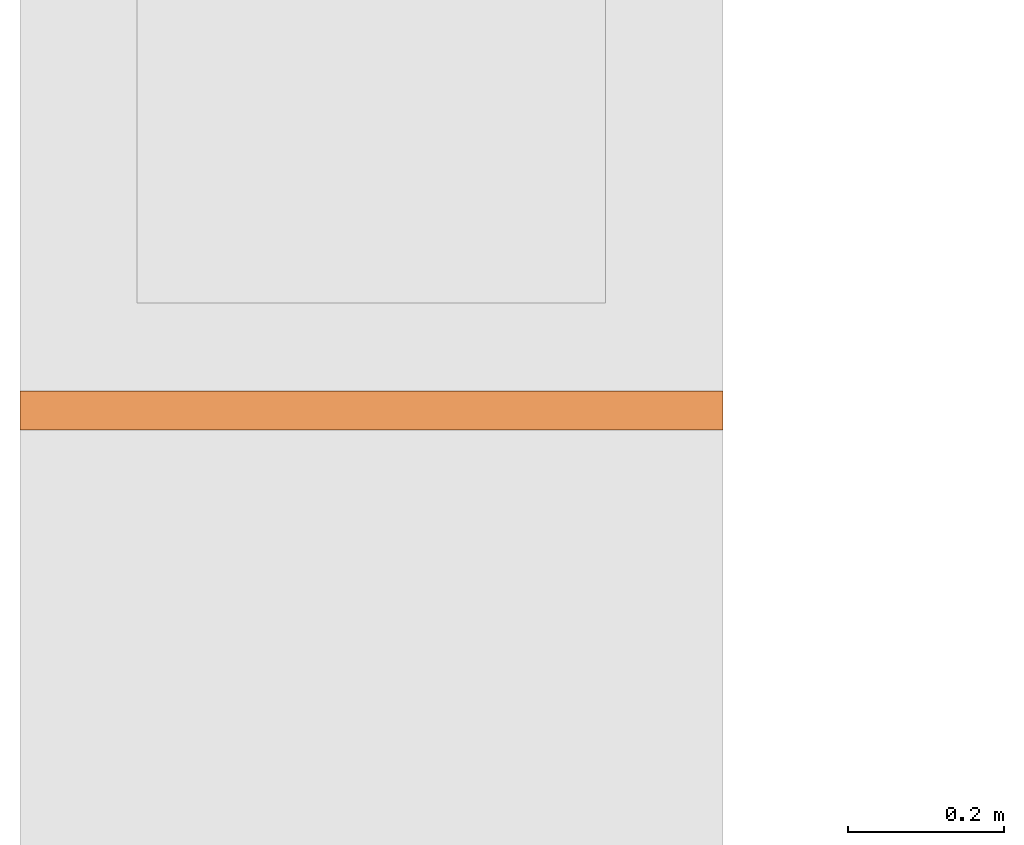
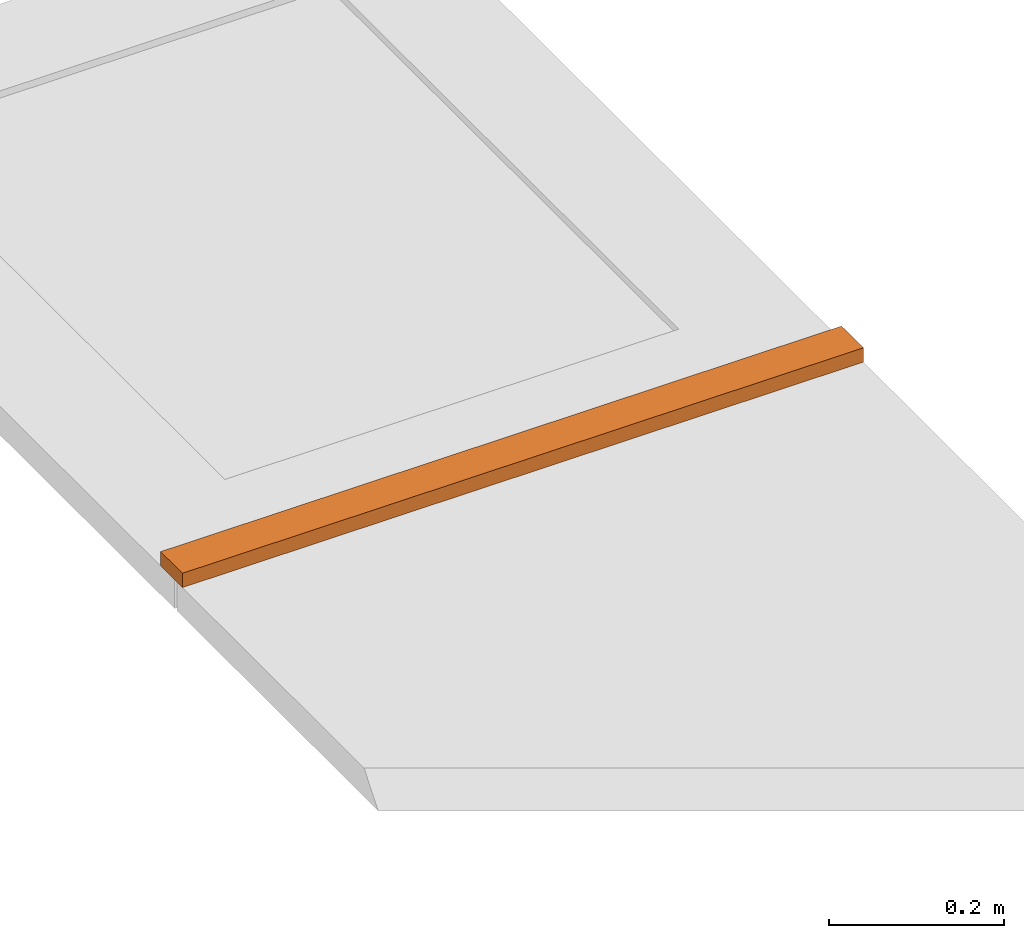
# One storey, part 163 of 167: 1 proxy.
"""IFC2X3 building model written with IfcOpenShell, lengths in millimetres."""

from ifc_helpers import new_model, entity, si_unit, converted_unit, derived_unit, money_unit, direction, frame, origin_with_axes, place, context, subcontext, project, spatial, faceted_brep, material, type_object, element, save


model = new_model("IFC2X3")

# Units and contexts
model_context = context("Model", 3, precision=0.01, world=origin_with_axes(), true_north=direction((0.0, 1.0)))
plan_context = context("Plan", 3, precision=0.01, world=origin_with_axes(), true_north=direction((0.0, 1.0)))
body_context = subcontext(model_context, "Body", "Model", "MODEL_VIEW")
ifc_project = project(units=[si_unit("LENGTHUNIT", "METRE", prefix="MILLI"), si_unit("AREAUNIT", "SQUARE_METRE"), si_unit("VOLUMEUNIT", "CUBIC_METRE"), converted_unit("PLANEANGLEUNIT", "DEGREE", entity("IfcPlaneAngleMeasure", 0.0174532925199), si_unit("PLANEANGLEUNIT", "RADIAN"), dimensions=[0, 0, 0, 0, 0, 0, 0]), si_unit("SOLIDANGLEUNIT", "STERADIAN"), money_unit("EUR"), converted_unit("TIMEUNIT", "Year", entity("IfcTimeMeasure", 31556926.0), si_unit("TIMEUNIT", "SECOND"), dimensions=[0, 0, 1, 0, 0, 0, 0]), si_unit("MASSUNIT", "GRAM", prefix="KILO"), si_unit("THERMODYNAMICTEMPERATUREUNIT", "DEGREE_CELSIUS"), si_unit("LUMINOUSINTENSITYUNIT", "LUMEN"), si_unit("ENERGYUNIT", "JOULE", prefix="MEGA"), derived_unit("THERMALCONDUCTANCEUNIT", [(si_unit("POWERUNIT", "WATT"), 1), (si_unit("LENGTHUNIT", "METRE"), -1), (si_unit("THERMODYNAMICTEMPERATUREUNIT", "KELVIN"), -1)]), derived_unit("SPECIFICHEATCAPACITYUNIT", [(si_unit("ENERGYUNIT", "JOULE"), 1), (si_unit("MASSUNIT", "GRAM", prefix="KILO"), -1), (si_unit("THERMODYNAMICTEMPERATUREUNIT", "KELVIN"), -1)]), derived_unit("MASSDENSITYUNIT", [(si_unit("MASSUNIT", "GRAM", prefix="KILO"), 1), (si_unit("VOLUMEUNIT", "CUBIC_METRE"), -1)])], contexts=[model_context, plan_context])

# Site, building, storey
site_placement = place(None, origin_with_axes())
site = spatial("IfcSite", under=ifc_project, at=site_placement, Name="Site", CompositionType="ELEMENT")
building_placement = place(site_placement, origin_with_axes())
building = spatial("IfcBuilding", under=site, at=building_placement, Name="Naam gebouw", CompositionType="ELEMENT")
storey_placement = place(building_placement, origin_with_axes())
storey = spatial("IfcBuildingStorey", under=building, at=storey_placement, Name="Begane grond", CompositionType="ELEMENT", Elevation=0.0)

# Proxy
ifc_material = material(Name="_TenW_24_Hout - Multiplex")
building_element_proxy_type = type_object("IfcBuildingElementProxyType", Name="_TenW_24_Hout - Multiplex 20", PredefinedType="NOTDEFINED")
proxy_placement = place(storey_placement, frame((-39825.2123587, 62474.1389679, 40.0), z_axis=(0.0, 0.0, 1.0), x_axis=(1.0, 0.0, 0.0)))
element("IfcBuildingElementProxy", 1, at=proxy_placement, inside=storey, type_object=building_element_proxy_type, material=ifc_material, Name="23__Vloer-x", context=body_context, shape_type="Brep", body=[
    faceted_brep([(0.0, 0.0, 20.0), (0.0, 0.0, 0.0), (900.0, 0.0, 0.0), (900.0, 0.0, 20.0), (0.0, 50.0, 20.0), (0.0, 50.0, 0.0), (900.0, 50.0, 0.0), (900.0, 50.0, 20.0)], [[[0, 1, 2, 3]], [[4, 5, 1, 0]], [[2, 1, 5, 6]], [[3, 2, 6, 7]], [[4, 0, 3, 7]], [[7, 6, 5, 4]]]),
])

save(model, "model.ifc")
